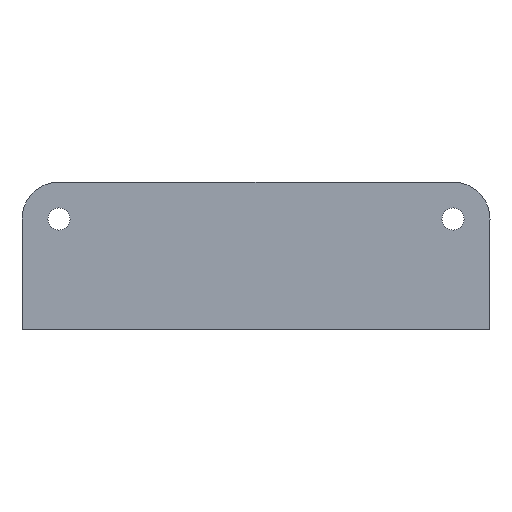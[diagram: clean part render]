
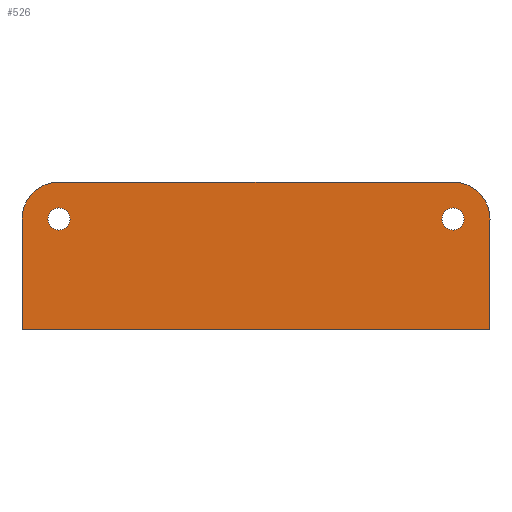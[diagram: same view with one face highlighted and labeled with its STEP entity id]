
A CAD part, top view. The second image highlights one B-rep face of the part: STEP entity #526.
In plain terms, the highlighted planar face has unit normal (0, 0, 1).
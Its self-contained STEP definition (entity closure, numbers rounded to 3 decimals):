
#247=PLANE('',#511);
#249=CIRCLE('',#498,15.);
#251=CIRCLE('',#504,15.);
#254=CIRCLE('',#510,4.5);
#255=CIRCLE('',#512,4.5);
#290=ORIENTED_EDGE('',*,*,#347,.T.);
#291=ORIENTED_EDGE('',*,*,#361,.F.);
#292=ORIENTED_EDGE('',*,*,#359,.T.);
#293=ORIENTED_EDGE('',*,*,#356,.F.);
#294=ORIENTED_EDGE('',*,*,#353,.F.);
#295=ORIENTED_EDGE('',*,*,#350,.F.);
#296=ORIENTED_EDGE('',*,*,#364,.F.);
#297=ORIENTED_EDGE('',*,*,#365,.F.);
#304=VECTOR('',#410,1.);
#307=VECTOR('',#415,1.);
#310=VECTOR('',#420,1.);
#313=VECTOR('',#431,1.);
#318=LINE('',#462,#304);
#321=LINE('',#468,#307);
#324=LINE('',#474,#310);
#327=LINE('',#483,#313);
#329=VERTEX_POINT('',#450);
#331=VERTEX_POINT('',#454);
#333=VERTEX_POINT('',#459);
#335=VERTEX_POINT('',#465);
#337=VERTEX_POINT('',#471);
#339=VERTEX_POINT('',#477);
#342=VERTEX_POINT('',#490);
#343=VERTEX_POINT('',#493);
#347=EDGE_CURVE('',#329,#331,#249,.T.);
#350=EDGE_CURVE('',#329,#333,#318,.T.);
#353=EDGE_CURVE('',#333,#335,#321,.T.);
#356=EDGE_CURVE('',#335,#337,#324,.T.);
#359=EDGE_CURVE('',#339,#337,#251,.T.);
#361=EDGE_CURVE('',#339,#331,#327,.T.);
#364=EDGE_CURVE('',#342,#342,#254,.T.);
#365=EDGE_CURVE('',#343,#343,#255,.T.);
#377=EDGE_LOOP('',(#290,#291,#292,#293,#294,#295));
#378=EDGE_LOOP('',(#296));
#379=EDGE_LOOP('',(#297));
#393=FACE_BOUND('',#377,.T.);
#394=FACE_BOUND('',#378,.T.);
#395=FACE_BOUND('',#379,.T.);
#404=DIRECTION('',(0.,0.,1.));
#405=DIRECTION('',(0.,-15.,0.));
#410=DIRECTION('',(0.,-45.,0.));
#415=DIRECTION('',(-190.,0.,0.));
#420=DIRECTION('',(0.,45.,0.));
#426=DIRECTION('',(0.,0.,1.));
#427=DIRECTION('',(0.,-15.,0.));
#431=DIRECTION('',(160.,0.,0.));
#440=DIRECTION('',(0.,0.,1.));
#441=DIRECTION('',(0.,-4.5,0.));
#442=DIRECTION('',(0.,0.,1.));
#443=DIRECTION('',(0.,-1.,0.));
#444=DIRECTION('',(0.,0.,1.));
#445=DIRECTION('',(0.,-4.5,0.));
#450=CARTESIAN_POINT('',(6142.004,12991.36,8.));
#454=CARTESIAN_POINT('',(6127.004,13006.36,8.));
#456=CARTESIAN_POINT('',(6127.004,12991.36,8.));
#459=CARTESIAN_POINT('',(6142.004,12946.36,8.));
#462=CARTESIAN_POINT('',(6142.004,12991.36,8.));
#465=CARTESIAN_POINT('',(5952.004,12946.36,8.));
#468=CARTESIAN_POINT('',(6142.004,12946.36,8.));
#471=CARTESIAN_POINT('',(5952.004,12991.36,8.));
#474=CARTESIAN_POINT('',(5952.004,12946.36,8.));
#477=CARTESIAN_POINT('',(5967.004,13006.36,8.));
#480=CARTESIAN_POINT('',(5967.004,12991.36,8.));
#483=CARTESIAN_POINT('',(5967.004,13006.36,8.));
#490=CARTESIAN_POINT('',(6127.004,12986.86,8.));
#491=CARTESIAN_POINT('',(6127.004,12991.36,8.));
#492=CARTESIAN_POINT('',(0.,0.,8.));
#493=CARTESIAN_POINT('',(5967.004,12986.86,8.));
#494=CARTESIAN_POINT('',(5967.004,12991.36,8.));
#498=AXIS2_PLACEMENT_3D('',#456,#404,#405);
#504=AXIS2_PLACEMENT_3D('',#480,#426,#427);
#510=AXIS2_PLACEMENT_3D('',#491,#440,#441);
#511=AXIS2_PLACEMENT_3D('',#492,#442,#443);
#512=AXIS2_PLACEMENT_3D('',#494,#444,#445);
#526=ADVANCED_FACE('',(#393,#394,#395),#247,.T.);
